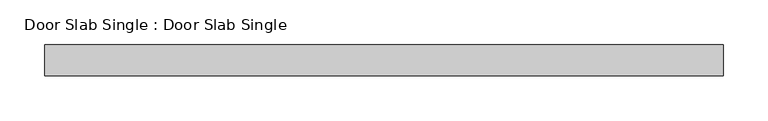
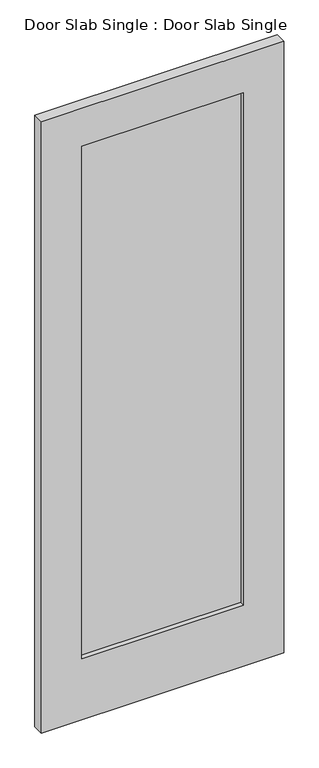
"""IFC4 building model written with IfcOpenShell, lengths in millimetres: proxy geometry, Door Slab Single : Door Slab Single."""

import ifcopenshell
import ifcopenshell.guid

model = None  # the IFC model being written
_history = None  # IfcOwnerHistory: only IFC2X3 demands one
_inside = {}  # id of a spatial element -> (the spatial element, [elements in it])
_under = {}  # id of a project, library or spatial element -> (it, [spatial elements below it])
_declared = {}  # id of a project -> (the project, [libraries it declares])
_typed = {}  # id of a type object -> (the type object, [elements of that type])
_made_of = {}  # id of a material, layer set ... -> (it, [elements and type objects made of it])


def new_model(schema):
    """Start an empty IFC model of exactly this schema.

    Asked for "IFC4X3", IfcOpenShell would pick the latest addendum, in which some entities
    have other attributes; the version numbers below select the first issue.
    IFC2X3 requires an IfcOwnerHistory on every rooted entity: one is made here for all.
    """
    global model, _history
    if schema == "IFC4X3":
        model = ifcopenshell.file(schema_version=(4, 3, 0, 0))
    else:
        model = ifcopenshell.file(schema=schema)
    _inside.clear()
    _under.clear()
    _declared.clear()
    _typed.clear()
    _made_of.clear()
    _history = None
    if model.schema == "IFC2X3":
        org = make("IfcOrganization", Name="unknown")
        user = make(
            "IfcPersonAndOrganization",
            ThePerson=make("IfcPerson", FamilyName="unknown"),
            TheOrganization=org,
        )
        app = make(
            "IfcApplication",
            ApplicationDeveloper=org,
            Version="unknown",
            ApplicationFullName="unknown",
            ApplicationIdentifier="unknown",
        )
        _history = make(
            "IfcOwnerHistory",
            OwningUser=user,
            OwningApplication=app,
            ChangeAction="ADDED",
            CreationDate=0,
        )
    return model


def make(cls, **values):
    """One entity of the class cls with the attributes given. An attribute that is None is left unset."""
    return model.create_entity(
        cls, **{name: value for name, value in values.items() if value is not None}
    )


def rooted(cls, **values):
    """An entity with a GlobalId (a new one), such as an element, a storey or a relation."""
    return make(cls, GlobalId=ifcopenshell.guid.new(), OwnerHistory=_history, **values)


def si_unit(unit_type, name, prefix=None):
    """IfcSIUnit, for example si_unit("LENGTHUNIT", "METRE", prefix="MILLI")."""
    return make("IfcSIUnit", UnitType=unit_type, Prefix=prefix, Name=name)


def assignment(units):
    """IfcUnitAssignment: the units of a project."""
    return None if units is None else make("IfcUnitAssignment", Units=units)


def point(xyz):
    """IfcCartesianPoint."""
    return None if xyz is None else make("IfcCartesianPoint", Coordinates=xyz)


def direction(xyz):
    """IfcDirection."""
    return None if xyz is None else make("IfcDirection", DirectionRatios=xyz)


def frame(location, z_axis=None, x_axis=None):
    """IfcAxis2Placement3D, a coordinate frame: its origin and axes. An axis left out is left unset."""
    return make(
        "IfcAxis2Placement3D",
        Location=point(location),
        Axis=direction(z_axis),
        RefDirection=direction(x_axis),
    )


def origin():
    """The frame at (0, 0, 0) with its axes left unset."""
    return frame((0.0, 0.0, 0.0))


def place(relative_to, where):
    """IfcLocalPlacement: puts the frame where relative to a parent placement (None: the world)."""
    return make(
        "IfcLocalPlacement", PlacementRelTo=relative_to, RelativePlacement=where
    )


def context(
    kind, dimensions, precision=None, world=None, true_north=None, identifier=None
):
    """IfcGeometricRepresentationContext, for example the 3D "Model" context."""
    return make(
        "IfcGeometricRepresentationContext",
        ContextIdentifier=identifier,
        ContextType=kind,
        CoordinateSpaceDimension=dimensions,
        Precision=precision,
        WorldCoordinateSystem=world,
        TrueNorth=true_north,
    )


def project(units=None, contexts=None):
    """IfcProject with its units and contexts."""
    return rooted(
        "IfcProject",
        Name="project",
        RepresentationContexts=contexts,
        UnitsInContext=assignment(units),
    )


def spatial(cls, under=None, at=None, **own):
    """A site, building, storey or space (cls), placed at a placement, below another one or the project."""
    s = rooted(cls, ObjectPlacement=at, **own)
    if under is not None:
        _under.setdefault(under.id(), (under, []))[1].append(s)
    return s


def polyline(points):
    """IfcPolyline through the points."""
    return make("IfcPolyline", Points=[point(p) for p in points])


def outline(outer, holes=None, kind="AREA"):
    """IfcArbitraryClosedProfileDef: a profile drawn as a closed curve; with holes, ...WithVoids."""
    if holes is None:
        return make("IfcArbitraryClosedProfileDef", ProfileType=kind, OuterCurve=outer)
    return make(
        "IfcArbitraryProfileDefWithVoids",
        ProfileType=kind,
        OuterCurve=outer,
        InnerCurves=holes,
    )


def extrude(swept, where, along, depth):
    """IfcExtrudedAreaSolid: the profile swept, set in the frame where, extruded along a direction by depth."""
    return make(
        "IfcExtrudedAreaSolid",
        SweptArea=swept,
        Position=where,
        ExtrudedDirection=direction(along),
        Depth=depth,
    )


def shape(context_of_items, identifier, shape_type, items):
    """IfcShapeRepresentation: the items that make up one representation, for example the "Body"."""
    return make(
        "IfcShapeRepresentation",
        ContextOfItems=context_of_items,
        RepresentationIdentifier=identifier,
        RepresentationType=shape_type,
        Items=items,
    )


def source(mapping_origin, context_of_items, identifier, shape_type, items):
    """IfcRepresentationMap: a shape defined once, which mapped items show again and again."""
    return make(
        "IfcRepresentationMap",
        MappingOrigin=mapping_origin,
        MappedRepresentation=shape(context_of_items, identifier, shape_type, items),
    )


def transform(
    local_origin,
    x_axis=None,
    y_axis=None,
    z_axis=None,
    scale=None,
    scale2=None,
    scale3=None,
    uniform=True,
):
    """IfcCartesianTransformationOperator3D, or its non-uniform kind. x_axis, y_axis, z_axis: its Axis1, 2, 3."""
    if uniform:
        return make(
            "IfcCartesianTransformationOperator3D",
            Axis1=direction(x_axis),
            Axis2=direction(y_axis),
            LocalOrigin=point(local_origin),
            Scale=scale,
            Axis3=direction(z_axis),
        )
    return make(
        "IfcCartesianTransformationOperator3DnonUniform",
        Axis1=direction(x_axis),
        Axis2=direction(y_axis),
        LocalOrigin=point(local_origin),
        Scale=scale,
        Axis3=direction(z_axis),
        Scale2=scale2,
        Scale3=scale3,
    )


def mapped(mapping_source, mapping_target):
    """IfcMappedItem: shows the shape of a source again, moved by a transform."""
    return make(
        "IfcMappedItem", MappingSource=mapping_source, MappingTarget=mapping_target
    )


def made_of(thing, what):
    """Note that an element or type object is made of a material, layer set ...; save() writes the relation."""
    if what is not None:
        _made_of.setdefault(what.id(), (what, []))[1].append(thing)
    return thing


def element(
    cls,
    number,
    at=None,
    inside=None,
    cuts=None,
    type_object=None,
    material=None,
    context=None,
    identifier="Body",
    shape_type=None,
    held_by="IfcProductDefinitionShape",
    body=None,
    shapes=None,
    **own,
):
    """One element of the class cls, such as IfcWall. Its Tag is "e" and its number.

    at: its placement. inside: the storey or other place that contains it. cuts: it is an
    opening in that element (IfcRelVoidsElement). A single representation is given by context,
    identifier, shape_type and body (its items); several are given by shapes. held_by: the class
    of the entity that holds the representations. save() writes the other relations.
    """
    e = rooted(cls, Tag="e%d" % number, ObjectPlacement=at, **own)
    if body is not None:
        shapes = [shape(context, identifier, shape_type, body)]
    if shapes is not None:
        e.Representation = make(held_by, Representations=shapes)
    if inside is not None:
        _inside.setdefault(inside.id(), (inside, []))[1].append(e)
    if cuts is not None:
        rooted(
            "IfcRelVoidsElement", RelatingBuildingElement=cuts, RelatedOpeningElement=e
        )
    if type_object is not None:
        _typed.setdefault(type_object.id(), (type_object, []))[1].append(e)
    return made_of(e, material)


def aggregate(whole, parts):
    """IfcRelAggregates: a whole, such as a stair, and the parts it consists of."""
    return rooted("IfcRelAggregates", RelatingObject=whole, RelatedObjects=parts)


def save(model, path):
    """Write the relations noted so far, then the file.

    IfcRelAggregates (storeys below a building ...), IfcRelContainedInSpatialStructure (elements
    in a storey), IfcRelDefinesByType, IfcRelAssociatesMaterial and IfcRelDeclares: one each for
    every whole, place, type object, material and project.
    """
    for whole, parts in _under.values():
        aggregate(whole, parts)
    for where, things in _inside.values():
        rooted(
            "IfcRelContainedInSpatialStructure",
            RelatedElements=things,
            RelatingStructure=where,
        )
    for kind, things in _typed.values():
        rooted("IfcRelDefinesByType", RelatedObjects=things, RelatingType=kind)
    for what, things in _made_of.values():
        rooted("IfcRelAssociatesMaterial", RelatedObjects=things, RelatingMaterial=what)
    for by, libraries in _declared.values():
        rooted("IfcRelDeclares", RelatingContext=by, RelatedDefinitions=libraries)
    model.write(path)


def door_slab_single_door_slab_single_75744a2c(model_context):
    return source(origin(), model_context, "Body", "SweptSolid", [
        extrude(outline(polyline([(254.0, 3.175), (254.0, -3.175), (-254.0, -3.175), (-254.0, 3.175), (254.0, 3.175)])), frame((0.0, 0.0, 203.2), z_axis=(0.0, 0.0, 1.0), x_axis=(1.0, 0.0, 0.0)), (0.0, 0.0, 1.0), 1701.8),
        extrude(outline(polyline([(0.0, 381.0), (2032.0, 381.0), (2032.0, -381.0), (0.0, -381.0), (0.0, 381.0)]), holes=[polyline([(203.2, 254.0), (203.2, -254.0), (1905.0, -254.0), (1905.0, 254.0), (203.2, 254.0)])]), frame((0.0, -17.4625, 0.0), z_axis=(0.0, 1.0, 0.0), x_axis=(0.0, 0.0, 1.0)), (0.0, 0.0, 1.0), 34.925),
    ])


if __name__ == "__main__":
    model = new_model("IFC4")
    model_context = context("Model", 3, world=origin())
    ifc_project = project(units=[si_unit("LENGTHUNIT", "METRE", prefix="MILLI")], contexts=[model_context])
    site = spatial("IfcSite", under=ifc_project)
    building = spatial("IfcBuilding", under=site)
    placement = place(None, origin())
    door_slab_single_door_slab_single_shape = door_slab_single_door_slab_single_75744a2c(model_context)
    element("IfcBuildingElementProxy", 1, Name="Door Slab Single : Door Slab Single", ObjectType="Door Slab Single : Door Slab Single", at=placement, inside=building, context=model_context, shape_type="MappedRepresentation", body=[
        mapped(door_slab_single_door_slab_single_shape, transform((0.0, 0.0, 0.0), x_axis=(1.0, 0.0, 0.0), y_axis=(0.0, 1.0, 0.0), z_axis=(0.0, 0.0, 1.0))),
    ])
    save(model, "model.ifc")
